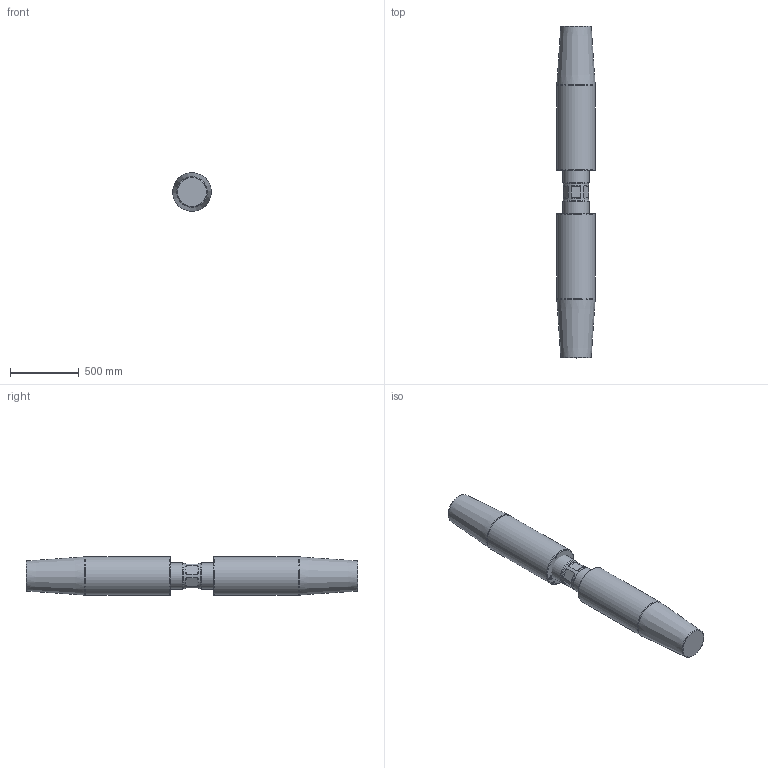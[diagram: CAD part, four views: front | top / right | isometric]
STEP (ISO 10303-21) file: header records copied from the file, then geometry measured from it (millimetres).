
FILE_DESCRIPTION(/* description */ (''),/* implementation_level */ '2;1');
FILE_NAME(/* name */ 'D:\Clienti\Redaelli (inventor)\CYA\STEP\Arrangement\CYA096 52 061 2.stp',/* time_stamp */ '2021-05-09T10:31:52+02:00',/* author */ ('fabri'),/* organization */ (''),/* preprocessor_version */ 'ST-DEVELOPER v16.13',/* originating_system */ 'Autodesk Inventor 2018',/* authorisation */ '');
FILE_SCHEMA (('AUTOMOTIVE_DESIGN { 1 0 10303 214 3 1 1 }'));
Length unit declared in the file: millimetre
Products named in the file (4): CYA012-54-062-0; TBF012-12-012-1; TBF012-13-012-0; TBF012-13-012-0_1
Assembly tree (3 placements, depth 2):
  CYA012-54-062-0
    TBF012-12-012-1
    TBF012-13-012-0
    TBF012-13-012-0_1
Bounding box: 279.82 x 2418 x 279.82 mm (x, y, z)
Volume: 149023706.4 mm3; surface area: 2673765.6 mm2
Topology: 3 solids, 3 shells, 529 faces, 1416 edges, 942 vertices
Faces by surface type: bspline 306, plane 180, cylinder 25, cone 14, torus 4
Full cylindrical faces by diameter (mm): 13.835 x6, 17.294 x2, 184 x1, 190 x2, 280 x2
Entity records: 18322 total; most frequent: CARTESIAN_POINT 7263, ORIENTED_EDGE 2754, EDGE_CURVE 1377, DIRECTION 1243, VERTEX_POINT 934, LINE 703, VECTOR 703, B_SPLINE_CURVE_WITH_KNOTS 632
